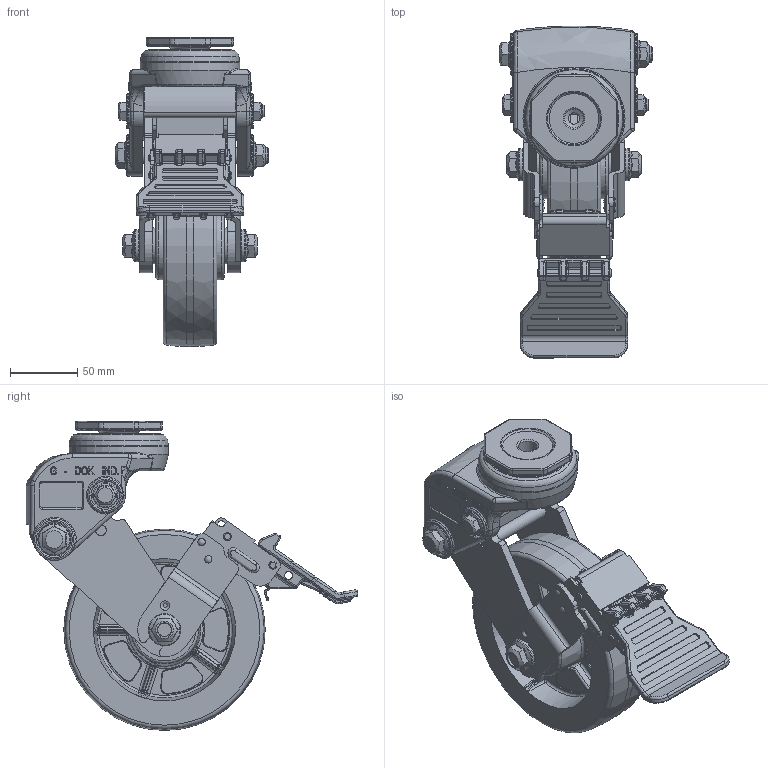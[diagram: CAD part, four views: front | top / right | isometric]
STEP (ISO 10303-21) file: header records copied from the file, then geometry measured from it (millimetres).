
FILE_DESCRIPTION((''),'2;1');
FILE_NAME('C:\Documents and Settings\Administrator\바탕 화면\3D STEP\GDS-SERIES\GDS-150\GDS-150B-SS.stp','2010-12-27T13:51:22',('Administrator'),(''),'Autodesk Inventor 2009','Autodesk Inventor 2009','');
FILE_SCHEMA(('AUTOMOTIVE_DESIGN { 1 0 10303 214 1 1 1 1 }'));
Length unit declared in the file: millimetre
Products named in the file (1): GDS-150B-SS
Bounding box: 114.5 x 247.09 x 230.14 mm (x, y, z)
Volume: 1023481.9 mm3; surface area: 257311.3 mm2
Topology: 12 solids, 12 shells, 2701 faces, 6828 edges, 4165 vertices
Faces by surface type: plane 848, cylinder 783, bspline 699, torus 200, cone 113, sphere 58
Full cylindrical faces by diameter (mm): 3 x3, 4 x6, 4.2 x8, 4.8 x2, 6 x2, 7.8 x2, 8.2 x2, 8.5 x1, 10 x4, 10.7 x2, 12 x4, 12.2 x4, 13.4 x2, 14.21 x1, 15 x4, 18 x1, 18.6 x2, 18.9 x1, 20 x1, 21.667 x4, 24 x4, 26 x2, 27 x4, 28.333 x4, 30 x2, 30.6 x1, 31 x2, 35 x2, 35.02 x2, 39 x1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
Entity records: 112546 total; most frequent: CARTESIAN_POINT 52027, ORIENTED_EDGE 12952, DIRECTION 11928, EDGE_CURVE 6476, AXIS2_PLACEMENT_3D 4655, VERTEX_POINT 4098, EDGE_LOOP 3074, FACE_OUTER_BOUND 2701
